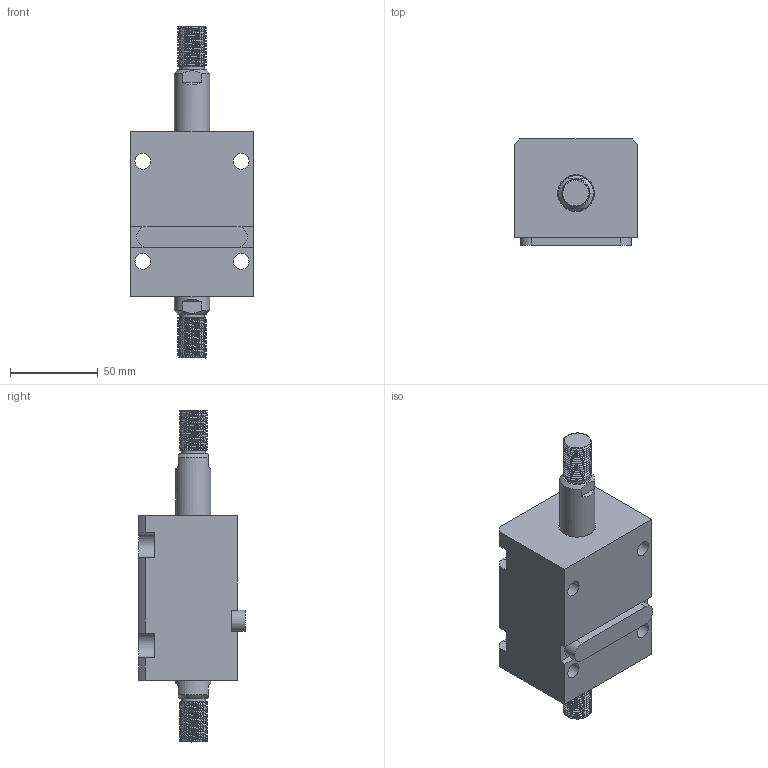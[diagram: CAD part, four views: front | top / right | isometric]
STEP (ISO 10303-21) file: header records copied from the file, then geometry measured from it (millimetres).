
FILE_DESCRIPTION(/* description */ (''),/* implementation_level */ '2;1');
FILE_NAME(/* name */ 'CHTB-LW32-25W.stp',/* time_stamp */ '2022-04-29T16:14:19+08:00',/* author */ (''),/* organization */ (''),/* preprocessor_version */ 'ST-DEVELOPER v16.7',/* originating_system */ 'SIEMENS PLM Software NX 12.0',/* authorisation */ '');
FILE_SCHEMA (('AUTOMOTIVE_DESIGN { 1 0 10303 214 3 1 1 1 }'));
Length unit declared in the file: millimetre
Products named in the file (1): CHTB-LW32-25W
Bounding box: 70 x 60.5 x 189 mm (x, y, z)
Volume: 356299.6 mm3; surface area: 71546.1 mm2
Topology: 3 solids, 3 shells, 475 faces, 1436 edges, 1008 vertices
Faces by surface type: plane 307, extrusion 83, cylinder 46, bspline 14, cone 13, torus 12
Full cylindrical faces by diameter (mm): 3 x2, 4 x2, 9 x4, 10.7 x2, 14 x2, 20 x4, 24.5 x1, 26 x2, 28 x1, 32 x5, 40 x1
Entity records: 26665 total; most frequent: CARTESIAN_POINT 12445, ORIENTED_EDGE 2748, DIRECTION 1928, EDGE_CURVE 1374, VERTEX_POINT 995, VECTOR 944, LINE 861, EDGE_LOOP 579
